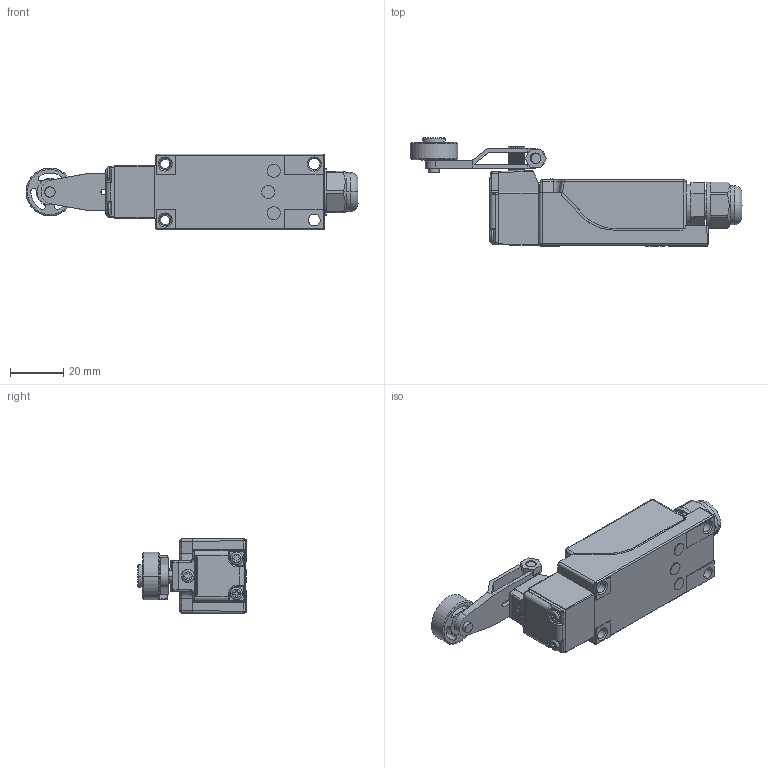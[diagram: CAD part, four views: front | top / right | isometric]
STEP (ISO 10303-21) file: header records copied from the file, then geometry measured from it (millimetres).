
FILE_DESCRIPTION((''),'2;1');
FILE_NAME('CZ-8105N','2024-01-04T',('Administrator'),(''),'CREO PARAMETRIC BY PTC INC, 2017300','CREO PARAMETRIC BY PTC INC, 2017300','');
FILE_SCHEMA(('CONFIG_CONTROL_DESIGN'));
Products named in the file (23): CZ-8價釱N倰1; 菁釱躇猾菜-陔; CZ-8價釱裔N倰; CZ-8螺纹塞; CZ-8螺纹塞密封圈; CZ-8螺纹塞尾套; CZ-8N螺纹塞; 麥芛蹟隊M3X5; 麥芛蹟隊M3X20; CZ-8N價釱郪璃; TZ-8蛌粣; 0719пͷ; 詢躇猾倰裔; 埴芛蹟隊M2﹝5X20; 埴芛蹟隊M2﹝5X4; 紱釬儂凳; 8104啊裝; TZ-8詩謫; 8104謫赽穩隊; 8105啊裝儂凳; 囀鞠褒蹟邡M4X13; M4蹟簽; CZ-8105N
Assembly tree (24 placements, depth 4):
  CZ-8105N
    CZ-8N價釱郪璃
      CZ-8價釱N倰1
      菁釱躇猾菜-陔
      CZ-8價釱裔N倰
      CZ-8N螺纹塞
        CZ-8螺纹塞
        CZ-8螺纹塞密封圈
        CZ-8螺纹塞尾套
      麥芛蹟隊M3X5
      麥芛蹟隊M3X20  x2
    紱釬儂凳
      TZ-8蛌粣
      0719пͷ
      詢躇猾倰裔
      埴芛蹟隊M2﹝5X20
      埴芛蹟隊M2﹝5X4  x2
    8105啊裝儂凳
      8104啊裝
      TZ-8詩謫
      8104謫赽穩隊
    囀鞠褒蹟邡M4X13
    M4蹟簽
Bounding box: 124.92 x 40.75 x 28.47 mm (x, y, z)
Volume: 28620 mm3; surface area: 33627.2 mm2
Topology: 20 solids, 20 shells, 1921 faces, 5014 edges, 3209 vertices
Faces by surface type: plane 840, cylinder 707, bspline 166, cone 140, torus 58, sphere 10
Entity records: 98970 total; most frequent: CARTESIAN_POINT 37487, ORIENTED_EDGE 9290, DIRECTION 8347, PRESENTATION_STYLE_ASSIGNMENT 4909, STYLED_ITEM 4909, EDGE_CURVE 4645, CURVE_STYLE 4097, VERTEX_POINT 2981
